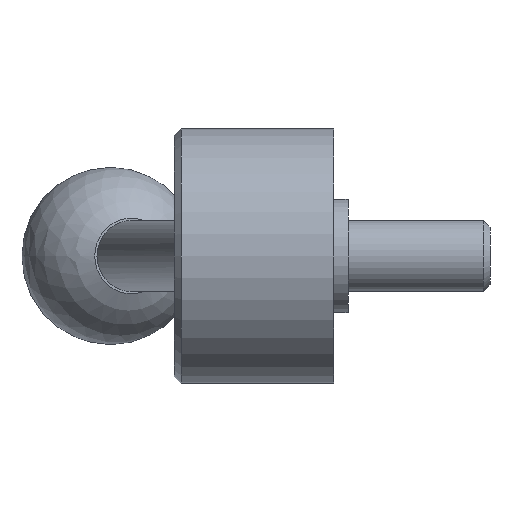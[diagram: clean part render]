
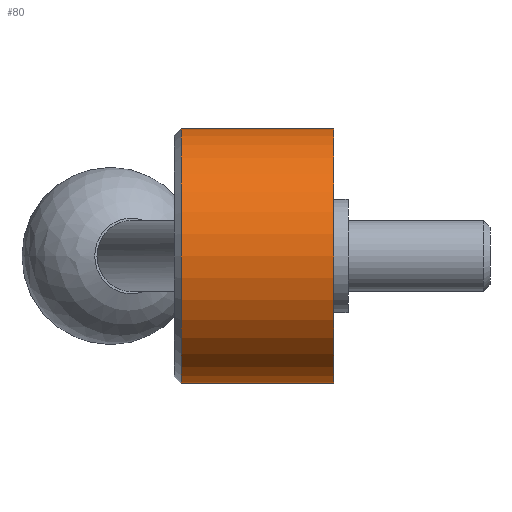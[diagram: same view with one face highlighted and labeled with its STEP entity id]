
A CAD part, left-side view. The second image highlights one B-rep face of the part: STEP entity #80.
In plain terms, the highlighted cylindrical face has radius 18 mm (diameter 36 mm), a full revolution.
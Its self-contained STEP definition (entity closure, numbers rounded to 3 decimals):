
#80 = ADVANCED_FACE( '', ( #106, #107, #108 ), #109, .T. );
#106 = FACE_OUTER_BOUND( '', #150, .T. );
#107 = FACE_BOUND( '', #151, .T. );
#108 = FACE_OUTER_BOUND( '', #152, .T. );
#109 = CYLINDRICAL_SURFACE( '', #153, 18. );
#150 = EDGE_LOOP( '', ( #204 ) );
#151 = EDGE_LOOP( '', ( #205 ) );
#152 = EDGE_LOOP( '', ( #206 ) );
#153 = AXIS2_PLACEMENT_3D( '', #207, #208, #209 );
#204 = ORIENTED_EDGE( '', *, *, #258, .F. );
#205 = ORIENTED_EDGE( '', *, *, #259, .F. );
#206 = ORIENTED_EDGE( '', *, *, #260, .T. );
#207 = CARTESIAN_POINT( '', ( 0., 0., 0. ) );
#208 = DIRECTION( '', ( 0., 1., 0. ) );
#209 = DIRECTION( '', ( 0., 0., -1. ) );
#258 = EDGE_CURVE( '', #278, #278, #279, .T. );
#259 = EDGE_CURVE( '', #280, #280, #281, .T. );
#260 = EDGE_CURVE( '', #282, #282, #283, .T. );
#278 = VERTEX_POINT( '', #306 );
#279 = CIRCLE( '', #307, 18. );
#280 = VERTEX_POINT( '', #308 );
#281 = B_SPLINE_CURVE_WITH_KNOTS( '', 3, ( #309, #310, #311, #312, #313, #314, #315, #316, #317, #318, #319, #320, #321, #322, #323, #324, #325, #326, #327, #328, #329, #330, #331, #332, #333, #334, #335, #336, #337, #338, #339, #340, #341, #342, #343, #344, #345, #346, #347, #348, #349, #350, #351, #352, #353, #354, #355, #356, #357, #358, #359, #360, #361, #362, #363, #364, #365, #366, #367, #368, #369, #370, #371, #372, #373, #374, #375, #376, #377, #378, #379, #380, #381, #382 ), .UNSPECIFIED., .T., .F., ( 2, 2, 2, 2, 2, 2, 2, 2, 2, 2, 2, 2, 2, 2, 2, 2, 2, 2, 2, 2, 2, 2, 2, 2, 2, 2, 2, 2, 2, 2, 2, 2, 2, 2, 2, 2, 2, 2, 2 ), ( -0.001, 0., 0.001, 0.002, 0.003, 0.004, 0.005, 0.006, 0.006, 0.007, 0.008, 0.009, 0.01, 0.011, 0.012, 0.013, 0.014, 0.015, 0.015, 0.016, 0.017, 0.018, 0.019, 0.02, 0.021, 0.022, 0.023, 0.023, 0.024, 0.025, 0.026, 0.027, 0.027, 0.028, 0.028, 0.029, 0.03, 0.031, 0.032 ), .UNSPECIFIED. );
#282 = VERTEX_POINT( '', #383 );
#283 = CIRCLE( '', #384, 18. );
#306 = CARTESIAN_POINT( '', ( 0., 2., -18. ) );
#307 = AXIS2_PLACEMENT_3D( '', #412, #413, #414 );
#308 = CARTESIAN_POINT( '', ( 17.292, 15., 5. ) );
#309 = CARTESIAN_POINT( '', ( 17.292, 15.332, 5. ) );
#310 = CARTESIAN_POINT( '', ( 17.292, 14.668, 5. ) );
#311 = CARTESIAN_POINT( '', ( 17.301, 14.342, 4.967 ) );
#312 = CARTESIAN_POINT( '', ( 17.337, 13.701, 4.839 ) );
#313 = CARTESIAN_POINT( '', ( 17.365, 13.382, 4.742 ) );
#314 = CARTESIAN_POINT( '', ( 17.431, 12.778, 4.491 ) );
#315 = CARTESIAN_POINT( '', ( 17.471, 12.491, 4.337 ) );
#316 = CARTESIAN_POINT( '', ( 17.557, 11.949, 3.974 ) );
#317 = CARTESIAN_POINT( '', ( 17.603, 11.693, 3.765 ) );
#318 = CARTESIAN_POINT( '', ( 17.695, 11.235, 3.306 ) );
#319 = CARTESIAN_POINT( '', ( 17.741, 11.028, 3.055 ) );
#320 = CARTESIAN_POINT( '', ( 17.826, 10.663, 2.509 ) );
#321 = CARTESIAN_POINT( '', ( 17.865, 10.508, 2.221 ) );
#322 = CARTESIAN_POINT( '', ( 17.913, 10.321, 1.77 ) );
#323 = CARTESIAN_POINT( '', ( 17.928, 10.266, 1.616 ) );
#324 = CARTESIAN_POINT( '', ( 17.953, 10.17, 1.303 ) );
#325 = CARTESIAN_POINT( '', ( 17.965, 10.129, 1.141 ) );
#326 = CARTESIAN_POINT( '', ( 17.991, 10.032, 0.657 ) );
#327 = CARTESIAN_POINT( '', ( 18., 10., 0.331 ) );
#328 = CARTESIAN_POINT( '', ( 18., 10., -0.325 ) );
#329 = CARTESIAN_POINT( '', ( 17.991, 10.033, -0.658 ) );
#330 = CARTESIAN_POINT( '', ( 17.956, 10.161, -1.301 ) );
#331 = CARTESIAN_POINT( '', ( 17.93, 10.256, -1.613 ) );
#332 = CARTESIAN_POINT( '', ( 17.865, 10.508, -2.221 ) );
#333 = CARTESIAN_POINT( '', ( 17.826, 10.664, -2.511 ) );
#334 = CARTESIAN_POINT( '', ( 17.742, 11.025, -3.051 ) );
#335 = CARTESIAN_POINT( '', ( 17.696, 11.234, -3.305 ) );
#336 = CARTESIAN_POINT( '', ( 17.603, 11.696, -3.767 ) );
#337 = CARTESIAN_POINT( '', ( 17.557, 11.947, -3.973 ) );
#338 = CARTESIAN_POINT( '', ( 17.471, 12.487, -4.335 ) );
#339 = CARTESIAN_POINT( '', ( 17.431, 12.779, -4.492 ) );
#340 = CARTESIAN_POINT( '', ( 17.365, 13.382, -4.742 ) );
#341 = CARTESIAN_POINT( '', ( 17.338, 13.694, -4.838 ) );
#342 = CARTESIAN_POINT( '', ( 17.31, 14.177, -4.935 ) );
#343 = CARTESIAN_POINT( '', ( 17.303, 14.342, -4.959 ) );
#344 = CARTESIAN_POINT( '', ( 17.294, 14.67, -4.992 ) );
#345 = CARTESIAN_POINT( '', ( 17.292, 14.834, -5. ) );
#346 = CARTESIAN_POINT( '', ( 17.292, 15.325, -5. ) );
#347 = CARTESIAN_POINT( '', ( 17.301, 15.652, -4.968 ) );
#348 = CARTESIAN_POINT( '', ( 17.338, 16.302, -4.839 ) );
#349 = CARTESIAN_POINT( '', ( 17.364, 16.615, -4.743 ) );
#350 = CARTESIAN_POINT( '', ( 17.431, 17.217, -4.493 ) );
#351 = CARTESIAN_POINT( '', ( 17.471, 17.51, -4.337 ) );
#352 = CARTESIAN_POINT( '', ( 17.557, 18.052, -3.974 ) );
#353 = CARTESIAN_POINT( '', ( 17.603, 18.302, -3.768 ) );
#354 = CARTESIAN_POINT( '', ( 17.695, 18.764, -3.308 ) );
#355 = CARTESIAN_POINT( '', ( 17.741, 18.973, -3.052 ) );
#356 = CARTESIAN_POINT( '', ( 17.826, 19.335, -2.513 ) );
#357 = CARTESIAN_POINT( '', ( 17.864, 19.489, -2.226 ) );
#358 = CARTESIAN_POINT( '', ( 17.93, 19.743, -1.617 ) );
#359 = CARTESIAN_POINT( '', ( 17.956, 19.838, -1.303 ) );
#360 = CARTESIAN_POINT( '', ( 17.982, 19.934, -0.823 ) );
#361 = CARTESIAN_POINT( '', ( 17.989, 19.959, -0.661 ) );
#362 = CARTESIAN_POINT( '', ( 17.998, 19.992, -0.333 ) );
#363 = CARTESIAN_POINT( '', ( 18., 20., -0.167 ) );
#364 = CARTESIAN_POINT( '', ( 18., 20., 0.328 ) );
#365 = CARTESIAN_POINT( '', ( 17.991, 19.968, 0.653 ) );
#366 = CARTESIAN_POINT( '', ( 17.956, 19.84, 1.297 ) );
#367 = CARTESIAN_POINT( '', ( 17.93, 19.743, 1.616 ) );
#368 = CARTESIAN_POINT( '', ( 17.865, 19.493, 2.219 ) );
#369 = CARTESIAN_POINT( '', ( 17.827, 19.339, 2.506 ) );
#370 = CARTESIAN_POINT( '', ( 17.741, 18.974, 3.052 ) );
#371 = CARTESIAN_POINT( '', ( 17.696, 18.766, 3.304 ) );
#372 = CARTESIAN_POINT( '', ( 17.627, 18.423, 3.649 ) );
#373 = CARTESIAN_POINT( '', ( 17.604, 18.302, 3.758 ) );
#374 = CARTESIAN_POINT( '', ( 17.558, 18.05, 3.965 ) );
#375 = CARTESIAN_POINT( '', ( 17.536, 17.918, 4.064 ) );
#376 = CARTESIAN_POINT( '', ( 17.471, 17.51, 4.336 ) );
#377 = CARTESIAN_POINT( '', ( 17.431, 17.224, 4.49 ) );
#378 = CARTESIAN_POINT( '', ( 17.365, 16.622, 4.741 ) );
#379 = CARTESIAN_POINT( '', ( 17.338, 16.303, 4.838 ) );
#380 = CARTESIAN_POINT( '', ( 17.301, 15.659, 4.967 ) );
#381 = CARTESIAN_POINT( '', ( 17.292, 15.332, 5. ) );
#382 = CARTESIAN_POINT( '', ( 17.292, 14.668, 5. ) );
#383 = CARTESIAN_POINT( '', ( 0., 23.5, -18. ) );
#384 = AXIS2_PLACEMENT_3D( '', #415, #416, #417 );
#412 = CARTESIAN_POINT( '', ( 0., 2., 0. ) );
#413 = DIRECTION( '', ( 0., -1., 0. ) );
#414 = DIRECTION( '', ( 0., 0., -1. ) );
#415 = CARTESIAN_POINT( '', ( 0., 23.5, 0. ) );
#416 = DIRECTION( '', ( 0., -1., 0. ) );
#417 = DIRECTION( '', ( 0., 0., -1. ) );
